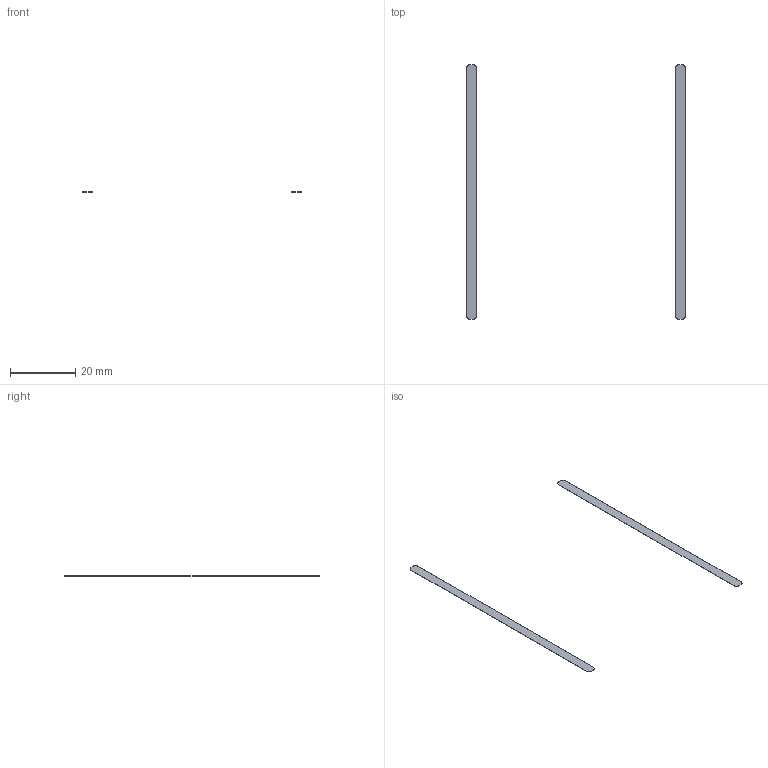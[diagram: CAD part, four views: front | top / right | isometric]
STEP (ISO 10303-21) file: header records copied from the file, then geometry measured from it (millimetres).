
FILE_DESCRIPTION(('Open CASCADE Model'),'2;1');
FILE_NAME('Open CASCADE Shape Model','2026-09-06T11:30:50',('Author'),( 'Open CASCADE'),'Open CASCADE STEP processor 7.7','Open CASCADE 7.7' ,'Unknown');
FILE_SCHEMA(('AUTOMOTIVE_DESIGN { 1 0 10303 214 1 1 1 1 }'));
Length unit declared in the file: millimetre
Products named in the file (3): Open CASCADE STEP translator 7.7 35; Open CASCADE STEP translator 7.7 35.1; Open CASCADE STEP translator 7.7 35.2
Assembly tree (2 placements, depth 2):
  Open CASCADE STEP translator 7.7 35
    Open CASCADE STEP translator 7.7 35.1
    Open CASCADE STEP translator 7.7 35.2
Bounding box: 67 x 78 x 0.1 mm (x, y, z)
Volume: 46.6 mm3; surface area: 964.6 mm2
Topology: 2 solids, 2 shells, 20 faces, 48 edges, 32 vertices
Faces by surface type: plane 12, cylinder 8
Entity records: 1280 total; most frequent: CARTESIAN_POINT 247, DIRECTION 198, LINE 112, VECTOR 112, ORIENTED_EDGE 96, PCURVE 96, DEFINITIONAL_REPRESENTATION 96, EDGE_CURVE 48
